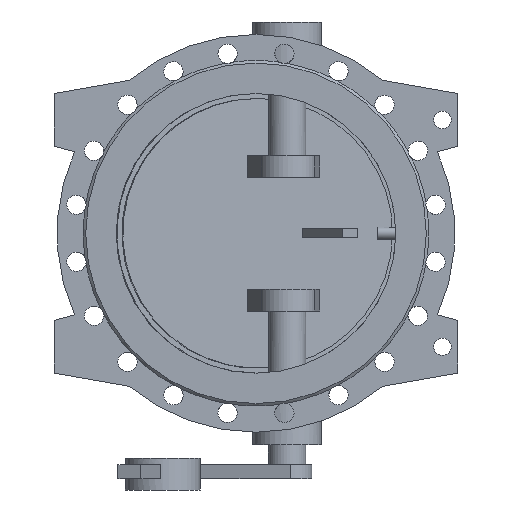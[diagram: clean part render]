
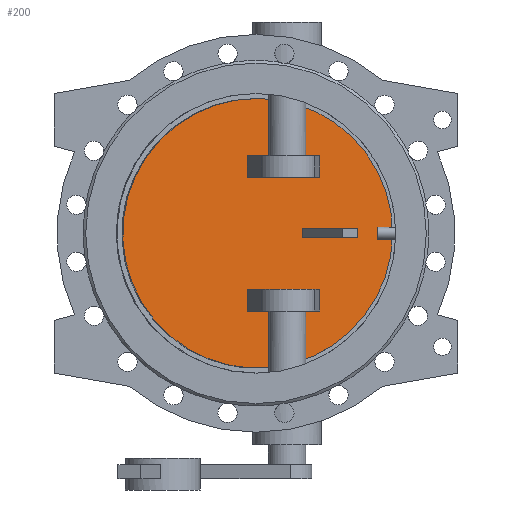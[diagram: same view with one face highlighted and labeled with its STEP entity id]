
A CAD part, front view. The second image highlights one B-rep face of the part: STEP entity #200.
In plain terms, the highlighted planar face has unit normal (0.131, -0.991, 0).
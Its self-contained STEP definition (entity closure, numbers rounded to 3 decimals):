
#200=ADVANCED_FACE('',(#1439,#1441,#1443,#1445),#1447,.T.);
#1439=FACE_BOUND('',#1440,.T.);
#1440=EDGE_LOOP('',(#2738));
#1441=FACE_BOUND('',#1442,.T.);
#1442=EDGE_LOOP('',(#2739,#2740,#2741,#2742));
#1443=FACE_BOUND('',#1444,.T.);
#1444=EDGE_LOOP('',(#2743,#2744,#2745,#2746));
#1445=FACE_BOUND('',#1446,.T.);
#1446=EDGE_LOOP('',(#2747,#2748,#2749,#2750));
#1447=PLANE('',#1448);
#1448=AXIS2_PLACEMENT_3D('',#1449,#1450,#1451);
#1449=CARTESIAN_POINT('',(-1.272,9.66,0.));
#1450=DIRECTION('',(0.131,-0.991,0.));
#1451=DIRECTION('',(0.,0.,-1.));
#2738=ORIENTED_EDGE('',*,*,#3445,.T.);
#2739=ORIENTED_EDGE('',*,*,#3529,.F.);
#2740=ORIENTED_EDGE('',*,*,#3530,.F.);
#2741=ORIENTED_EDGE('',*,*,#3531,.F.);
#2742=ORIENTED_EDGE('',*,*,#3532,.F.);
#2743=ORIENTED_EDGE('',*,*,#3533,.F.);
#2744=ORIENTED_EDGE('',*,*,#3534,.F.);
#2745=ORIENTED_EDGE('',*,*,#3535,.F.);
#2746=ORIENTED_EDGE('',*,*,#3536,.F.);
#2747=ORIENTED_EDGE('',*,*,#3537,.F.);
#2748=ORIENTED_EDGE('',*,*,#3538,.F.);
#2749=ORIENTED_EDGE('',*,*,#3539,.F.);
#2750=ORIENTED_EDGE('',*,*,#3540,.F.);
#3445=EDGE_CURVE('',#3872,#3872,#3873,.T.);
#3529=EDGE_CURVE('',#4040,#4041,#4042,.T.);
#3530=EDGE_CURVE('',#4043,#4040,#4044,.F.);
#3531=EDGE_CURVE('',#4045,#4043,#4046,.T.);
#3532=EDGE_CURVE('',#4041,#4045,#4047,.T.);
#3533=EDGE_CURVE('',#4048,#4049,#4050,.F.);
#3534=EDGE_CURVE('',#4051,#4048,#4052,.T.);
#3535=EDGE_CURVE('',#4053,#4051,#4054,.T.);
#3536=EDGE_CURVE('',#4049,#4053,#4055,.T.);
#3537=EDGE_CURVE('',#4056,#4057,#4058,.T.);
#3538=EDGE_CURVE('',#4059,#4056,#4060,.F.);
#3539=EDGE_CURVE('',#4061,#4059,#4062,.F.);
#3540=EDGE_CURVE('',#4057,#4061,#4063,.F.);
#3872=VERTEX_POINT('',#5104);
#3873=B_SPLINE_CURVE_WITH_KNOTS('',3,
(#5105,#5106,#5107,#5108,#5109,#5110,#5111,#5112,#5113,#5114,#5115,#5116,#5117,#5118,
#5119,#5120,#5121,#5122,#5123,#5124,#5125,#5126,#5127,#5128,#5129,#5130,#5131,#5132,
#5133,#5134,#5135,#5136,#5137,#5138,#5139,#5140,#5141,#5142,#5143,#5144,#5145,#5146,
#5147,#5148,#5149,#5150,#5151,#5152,#5153,#5154,#5155),
.UNSPECIFIED.,.T.,.F.,
(4,1,1,1,1,1,1,1,1,1,1,1,1,1,1,1,1,1,1,1,1,1,1,1,1,1,1,1,1,1,1,1,1,1,1,1,1,1,1,1,
1,1,1,1,1,1,1,1,4),
(0.,0.021,0.042,0.063,0.084,
0.105,0.126,0.147,0.168,0.189,
0.211,0.232,0.253,0.274,0.295,
0.316,0.337,0.358,0.379,0.4,
0.421,0.442,0.463,0.484,0.505,
0.526,0.548,0.569,0.59,0.611,
0.632,0.653,0.674,0.695,0.716,
0.737,0.758,0.779,0.8,0.821,
0.843,0.864,0.885,0.906,0.927,
0.948,0.969,0.986,1.),
.UNSPECIFIED.);
#4040=VERTEX_POINT('',#7874);
#4041=VERTEX_POINT('',#7875);
#4042=LINE('',#7876,#7877);
#4043=VERTEX_POINT('',#7879);
#4044=LINE('',#7880,#7881);
#4045=VERTEX_POINT('',#7883);
#4046=LINE('',#7884,#7885);
#4047=LINE('',#7887,#7888);
#4048=VERTEX_POINT('',#7890);
#4049=VERTEX_POINT('',#7891);
#4050=LINE('',#7892,#7893);
#4051=VERTEX_POINT('',#7895);
#4052=LINE('',#7896,#7897);
#4053=VERTEX_POINT('',#7899);
#4054=LINE('',#7900,#7901);
#4055=LINE('',#7903,#7904);
#4056=VERTEX_POINT('',#7906);
#4057=VERTEX_POINT('',#7907);
#4058=LINE('',#7908,#7909);
#4059=VERTEX_POINT('',#7911);
#4060=LINE('',#7912,#7913);
#4061=VERTEX_POINT('',#7915);
#4062=LINE('',#7916,#7917);
#4063=LINE('',#7919,#7920);
#5104=CARTESIAN_POINT('',(2.611,10.171,217.));
#5105=CARTESIAN_POINT('',(2.611,10.171,217.));
#5106=CARTESIAN_POINT('',(-6.922,8.916,217.));
#5107=CARTESIAN_POINT('',(-26.011,6.403,215.741));
#5108=CARTESIAN_POINT('',(-54.183,2.694,210.097));
#5109=CARTESIAN_POINT('',(-81.405,-0.89,200.775));
#5110=CARTESIAN_POINT('',(-107.176,-4.283,187.934));
#5111=CARTESIAN_POINT('',(-131.024,-7.422,171.808));
#5112=CARTESIAN_POINT('',(-152.536,-10.254,152.674));
#5113=CARTESIAN_POINT('',(-171.335,-12.729,130.87));
#5114=CARTESIAN_POINT('',(-187.091,-14.804,106.775));
#5115=CARTESIAN_POINT('',(-199.529,-16.441,80.811));
#5116=CARTESIAN_POINT('',(-208.43,-17.613,53.432));
#5117=CARTESIAN_POINT('',(-213.638,-18.299,25.117));
#5118=CARTESIAN_POINT('',(-215.062,-18.486,-3.636));
#5119=CARTESIAN_POINT('',(-212.678,-18.172,-32.326));
#5120=CARTESIAN_POINT('',(-206.527,-17.362,-60.448));
#5121=CARTESIAN_POINT('',(-196.717,-16.071,-87.512));
#5122=CARTESIAN_POINT('',(-183.421,-14.32,-113.044));
#5123=CARTESIAN_POINT('',(-166.872,-12.142,-136.597));
#5124=CARTESIAN_POINT('',(-147.358,-9.573,-157.76));
#5125=CARTESIAN_POINT('',(-125.223,-6.659,-176.163));
#5126=CARTESIAN_POINT('',(-100.852,-3.45,-191.486));
#5127=CARTESIAN_POINT('',(-74.672,-0.003,-203.46));
#5128=CARTESIAN_POINT('',(-47.14,3.621,-211.875));
#5129=CARTESIAN_POINT('',(-18.738,7.361,-216.585));
#5130=CARTESIAN_POINT('',(10.038,11.149,-217.508));
#5131=CARTESIAN_POINT('',(38.685,14.92,-214.626));
#5132=CARTESIAN_POINT('',(66.7,18.609,-207.99));
#5133=CARTESIAN_POINT('',(93.595,22.149,-197.716));
#5134=CARTESIAN_POINT('',(118.9,25.481,-183.984));
#5135=CARTESIAN_POINT('',(142.17,28.544,-167.033));
#5136=CARTESIAN_POINT('',(163.,31.287,-147.16));
#5137=CARTESIAN_POINT('',(181.025,33.66,-124.712));
#5138=CARTESIAN_POINT('',(195.93,35.622,-100.08));
#5139=CARTESIAN_POINT('',(207.452,37.139,-73.697));
#5140=CARTESIAN_POINT('',(215.39,38.184,-46.024));
#5141=CARTESIAN_POINT('',(219.605,38.739,-17.545));
#5142=CARTESIAN_POINT('',(220.023,38.794,11.241));
#5143=CARTESIAN_POINT('',(216.637,38.348,39.829));
#5144=CARTESIAN_POINT('',(209.506,37.409,67.719));
#5145=CARTESIAN_POINT('',(198.757,35.994,94.423));
#5146=CARTESIAN_POINT('',(184.576,34.127,119.474));
#5147=CARTESIAN_POINT('',(167.214,31.842,142.434));
#5148=CARTESIAN_POINT('',(146.972,29.177,162.904));
#5149=CARTESIAN_POINT('',(124.212,26.18,180.518));
#5150=CARTESIAN_POINT('',(99.359,22.908,194.959));
#5151=CARTESIAN_POINT('',(72.772,19.408,206.023));
#5152=CARTESIAN_POINT('',(46.552,15.956,213.053));
#5153=CARTESIAN_POINT('',(22.979,12.853,216.391));
#5154=CARTESIAN_POINT('',(8.836,10.991,217.));
#5155=CARTESIAN_POINT('',(2.611,10.171,217.));
#7874=CARTESIAN_POINT('',(149.358,29.491,-7.5));
#7875=CARTESIAN_POINT('',(149.358,29.491,7.5));
#7876=CARTESIAN_POINT('',(149.358,29.491,-7.5));
#7877=VECTOR('',#7878,1.);
#7878=DIRECTION('',(0.,0.,1.));
#7879=CARTESIAN_POINT('',(75.,19.701,-7.5));
#7880=CARTESIAN_POINT('',(149.358,29.491,-7.5));
#7881=VECTOR('',#7882,1.);
#7882=DIRECTION('',(-0.991,-0.131,0.));
#7883=CARTESIAN_POINT('',(75.,19.701,7.5));
#7884=CARTESIAN_POINT('',(75.,19.701,7.5));
#7885=VECTOR('',#7886,1.);
#7886=DIRECTION('',(0.,0.,-1.));
#7887=CARTESIAN_POINT('',(149.358,29.491,7.5));
#7888=VECTOR('',#7889,1.);
#7889=DIRECTION('',(-0.991,-0.131,0.));
#7890=CARTESIAN_POINT('',(-14.418,7.929,-125.));
#7891=CARTESIAN_POINT('',(102.407,23.31,-125.));
#7892=CARTESIAN_POINT('',(102.407,23.31,-125.));
#7893=VECTOR('',#7894,1.);
#7894=DIRECTION('',(-0.991,-0.131,0.));
#7895=CARTESIAN_POINT('',(-14.418,7.929,-90.));
#7896=CARTESIAN_POINT('',(-14.418,7.929,-90.));
#7897=VECTOR('',#7898,1.);
#7898=DIRECTION('',(0.,0.,-1.));
#7899=CARTESIAN_POINT('',(102.407,23.31,-90.));
#7900=CARTESIAN_POINT('',(102.407,23.31,-90.));
#7901=VECTOR('',#7902,1.);
#7902=DIRECTION('',(-0.991,-0.131,0.));
#7903=CARTESIAN_POINT('',(102.407,23.31,-125.));
#7904=VECTOR('',#7905,1.);
#7905=DIRECTION('',(0.,0.,1.));
#7906=CARTESIAN_POINT('',(102.407,23.31,125.));
#7907=CARTESIAN_POINT('',(-14.418,7.929,125.));
#7908=CARTESIAN_POINT('',(102.407,23.31,125.));
#7909=VECTOR('',#7910,1.);
#7910=DIRECTION('',(-0.991,-0.131,0.));
#7911=CARTESIAN_POINT('',(102.407,23.31,90.));
#7912=CARTESIAN_POINT('',(102.407,23.31,125.));
#7913=VECTOR('',#7914,1.);
#7914=DIRECTION('',(0.,0.,-1.));
#7915=CARTESIAN_POINT('',(-14.418,7.929,90.));
#7916=CARTESIAN_POINT('',(102.407,23.31,90.));
#7917=VECTOR('',#7918,1.);
#7918=DIRECTION('',(-0.991,-0.131,0.));
#7919=CARTESIAN_POINT('',(-14.418,7.929,90.));
#7920=VECTOR('',#7921,1.);
#7921=DIRECTION('',(0.,0.,1.));
